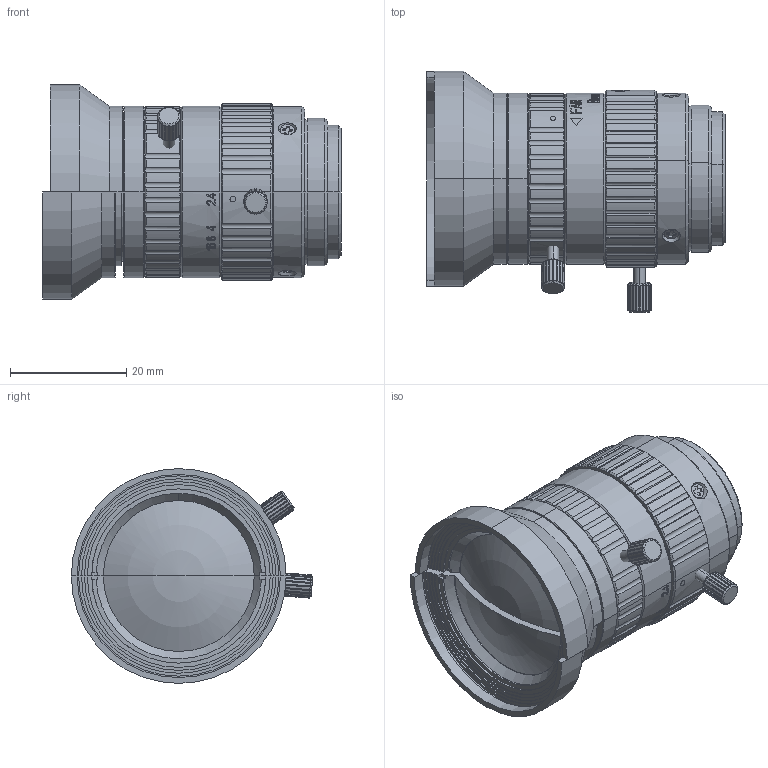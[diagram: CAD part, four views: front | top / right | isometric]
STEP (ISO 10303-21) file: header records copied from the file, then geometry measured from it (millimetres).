
FILE_DESCRIPTION (( 'STEP AP203' ), '1' );
FILE_NAME ('FAU0824MC.HR-H¶Ô°ë.STEP', '2025-07-05T03:57:35', ( '' ), ( '' ), 'SwSTEP 2.0', 'SolidWorks 2019', '' );
FILE_SCHEMA (( 'CONFIG_CONTROL_DESIGN' ));
Length unit declared in the file: millimetre
Products named in the file (1): FAU0824MC.HR-H勤圉
Bounding box: 51.36 x 41.56 x 37 mm (x, y, z)
Volume: 32609.4 mm3; surface area: 11836.9 mm2
Topology: 8 solids, 9 shells, 1031 faces, 2874 edges, 1908 vertices
Faces by surface type: plane 409, cylinder 337, cone 157, bspline 123, sphere 5
Entity records: 46682 total; most frequent: CARTESIAN_POINT 21789, ORIENTED_EDGE 5732, DIRECTION 4441, EDGE_CURVE 2866, VERTEX_POINT 1905, AXIS2_PLACEMENT_3D 1664, VECTOR 1113, LINE 1113
